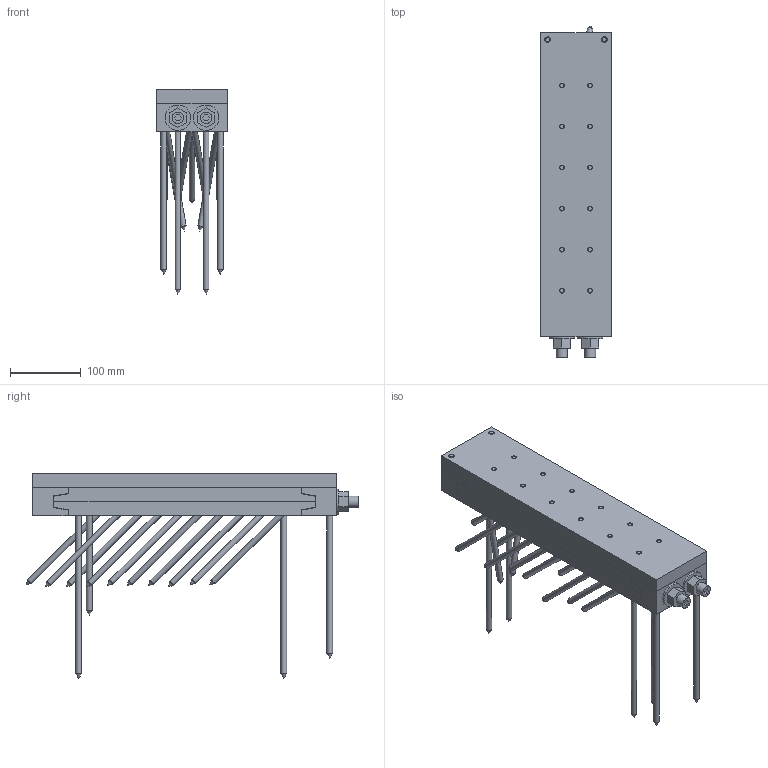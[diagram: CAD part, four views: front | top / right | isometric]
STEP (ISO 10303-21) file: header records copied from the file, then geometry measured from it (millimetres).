
FILE_DESCRIPTION(/* description */ ('Unknown'),/* implementation_level */ '2;1');
FILE_NAME(/* name */ 'MEGANT_430x100x40_Holz-Stahl-Anschluss_Sichtbar',/* time_stamp */ '2022-01-31T15:59:09+01:00',/* author */ ('Unknown'),/* organization */ ('Unknown'),/* preprocessor_version */ 'ST-DEVELOPER v16.7',/* originating_system */ 'Solid Edge',/* authorisation */ 'Unknown');
FILE_SCHEMA (('AUTOMOTIVE_DESIGN {1 0 10303 214 3 1 1}'));
Length unit declared in the file: millimetre
Products named in the file (18): MEGANT_430x100x40_Holz-Stahl-Anschluss_Sichtbar; Verbinderplatte_370x100x20_NT; Verbinderplatte_370x100x20; SK_Schraube_8x240; SK_Schraube_8x160; Verbinderplatte_370x100x20_HT_Stahlanschluss_12xM8x30; Verbinderplatte_370x100x20_Stahlanschluss_12xM8x30; SK_M8x30; Spannbacke_oben_100x50x40_NT; Spannbacke_oben_100x50x40; Spannbacke_unten_100x50x40_HT_2xSKM8x60; Spannbacke_unten_100x50x40; SK_M8x60; Stahlplatte_430x100x20_12xSKM8x25_2xM8x60; Gewindestange_M16_L460; Beilagscheibe_M16; Mutter_M16
Assembly tree (51 placements, depth 3):
  MEGANT_430x100x40_Holz-Stahl-Anschluss_Sichtbar
    Verbinderplatte_370x100x20_NT
      Verbinderplatte_370x100x20
      SK_Schraube_8x240  x4
      SK_Schraube_8x160  x17
    Verbinderplatte_370x100x20_HT_Stahlanschluss_12xM8x30
      Verbinderplatte_370x100x20_Stahlanschluss_12xM8x30
      SK_M8x30  x12
    Spannbacke_oben_100x50x40_NT
      Spannbacke_oben_100x50x40
      SK_Schraube_8x240  x2
    Spannbacke_unten_100x50x40_HT_2xSKM8x60
      Spannbacke_unten_100x50x40
      SK_M8x60  x2
    Stahlplatte_430x100x20_12xSKM8x25_2xM8x60
    Gewindestange_M16_L460  x2
      Gewindestange_M16_L460
      Beilagscheibe_M16
      Mutter_M16
Bounding box: 100 x 469.47 x 290 mm (x, y, z)
Volume: 2636401.9 mm3; surface area: 581626 mm2
Topology: 48 solids, 48 shells, 613 faces, 1449 edges, 913 vertices
Faces by surface type: plane 253, cylinder 232, cone 128
Full cylindrical faces by diameter (mm): 6.647 x28, 8 x37, 8.3 x2, 8.5 x54, 13.835 x2, 14 x4, 15 x65, 16 x14, 17 x16, 36 x2
Entity records: 12145 total; most frequent: DIRECTION 2034, CARTESIAN_POINT 1845, ORIENTED_EDGE 1552, AXIS2_PLACEMENT_3D 795, EDGE_CURVE 776, FACE_BOUND 776, EDGE_LOOP 774, VERTEX_POINT 606
